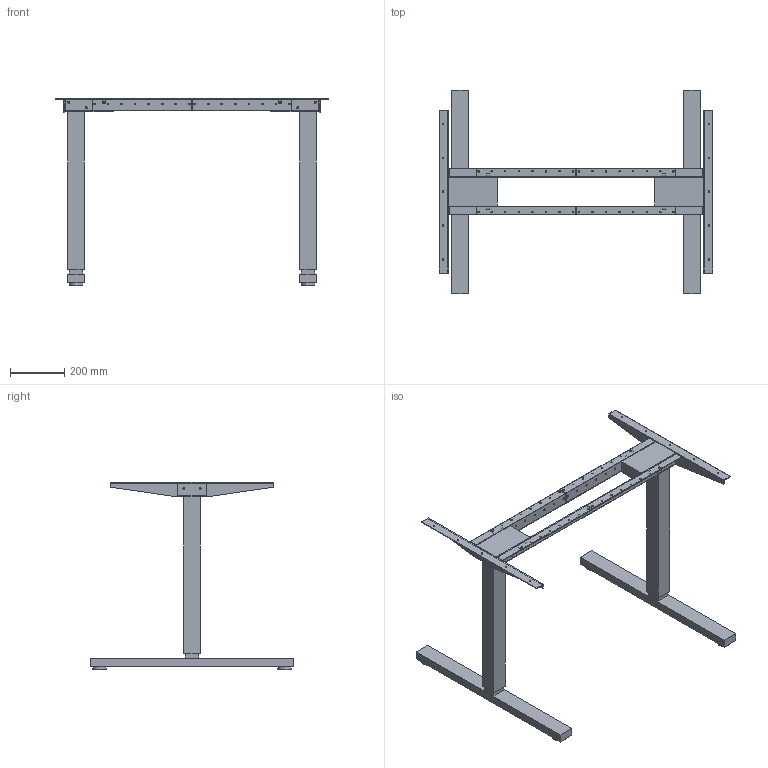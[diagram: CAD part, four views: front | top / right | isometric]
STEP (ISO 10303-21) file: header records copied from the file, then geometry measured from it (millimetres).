
FILE_DESCRIPTION( ( 'STEP AP214' ), '1' );
FILE_NAME( 'D:/Yug/2022/Actiforce_2022/QC/9309791.stp', '2022-03-02T07:40:45', ( '' ), ( '' ), ' ', 'PARTsolutions', ' ' );
FILE_SCHEMA( ( 'AUTOMOTIVE_DESIGN { 1 0 10303 214 1 1 1 1 }' ) );
Length unit declared in the file: millimetre
Products named in the file (6): 9309791(W1010XH600); _foot_sf_300_1010_600; _column_sf_300_600; _housing_plate_sf_300_1010; _top_support_sf_300; _crossbar_sf_300
Assembly tree (10 placements, depth 2):
  9309791(W1010XH600)
    _foot_sf_300_1010_600  x2
    _column_sf_300_600  x2
    _housing_plate_sf_300_1010  x2
    _top_support_sf_300  x2
    _crossbar_sf_300  x2
Bounding box: 1010 x 751.22 x 690 mm (x, y, z)
Volume: 9776861.9 mm3; surface area: 1346390.6 mm2
Topology: 10 solids, 10 shells, 280 faces, 742 edges, 492 vertices
Faces by surface type: plane 150, cylinder 130
Full cylindrical faces by diameter (mm): 5 x8, 5.2 x28, 5.5 x10, 6.2 x20, 6.5 x48, 50 x4
Entity records: 5560 total; most frequent: DIRECTION 744, CARTESIAN_POINT 709, ORIENTED_EDGE 624, EDGE_LOOP 314, EDGE_CURVE 312, AXIS2_PLACEMENT_3D 281, VERTEX_POINT 246, FACE_OUTER_BOUND 199
